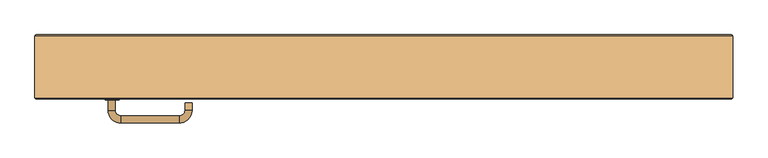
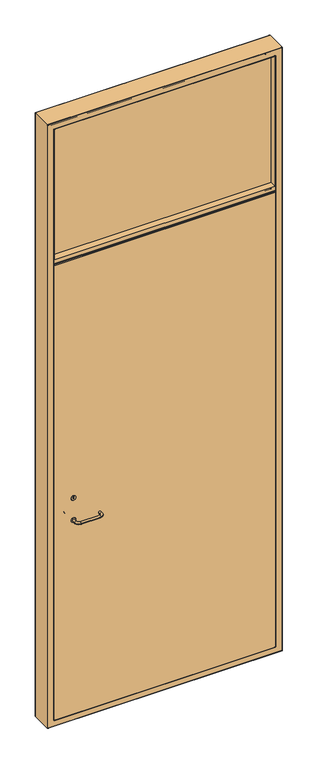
"""IFC4 building model written with IfcOpenShell, lengths in millimetres: door geometry, WOOD LINE_GARDEROBSKARM : WOOD LINE_GARDEROBSKARM."""

from ifc_helpers import new_model, si_unit, point, frame, frame_2d, origin, place, context, project, spatial, polyline, circle_curve, ellipse_curve, trimmed, segment, composite_curve, outline, extrude, source, transform, mapped, element, save
from ifc_brep_helpers import plane_surface, cylinder_surface, revolved_surface, advanced_brep


def door_4baf7495(model_context):
    return source(origin(), model_context, "Body", "SolidModel", [
        extrude(outline(composite_curve([segment(trimmed(circle_curve(frame_2d((900.0, -389.4405855)), 10.0), [point((900.0, -399.4405855))], [point((900.0, -379.4405855))], False, "CARTESIAN"), True, "CONTINUOUS"), segment(trimmed(circle_curve(frame_2d((900.0, -389.4405855)), 10.0), [point((900.0, -379.4405855))], [point((900.0, -399.4405855))], False, "CARTESIAN"), True, "CONTINUOUS")], self_intersect=False)), frame((0.0, -1.2008827, 0.0), z_axis=(0.0, 1.0, 0.0), x_axis=(0.0, 0.0, 1.0)), (0.0, 0.0, 1.0), 1.2008827),
        extrude(outline(composite_curve([segment(trimmed(circle_curve(frame_2d((1000.0, -389.4405855)), 10.0), [point((1000.0, -399.4405855))], [point((1000.0, -379.4405855))], False, "CARTESIAN"), True, "CONTINUOUS"), segment(trimmed(circle_curve(frame_2d((1000.0, -389.4405855)), 10.0), [point((1000.0, -379.4405855))], [point((1000.0, -399.4405855))], False, "CARTESIAN"), True, "CONTINUOUS")], self_intersect=False), holes=[composite_curve([segment(polyline([(1000.5857864, -388.9405855), (996.5, -388.9405855), (996.5, -389.9405855), (1000.5857864, -389.9405855)]), True, "CONTINUOUS"), segment(trimmed(circle_curve(frame_2d((1002.0, -389.4405855)), 1.5), [point((1000.5857864, -389.9405855))], [point((1000.5857864, -388.9405855))], True, "CARTESIAN"), True, "CONTINUOUS")], self_intersect=False)]), frame((0.0, -1.2008827, 0.0), z_axis=(0.0, 1.0, 0.0), x_axis=(0.0, 0.0, 1.0)), (0.0, 0.0, 1.0), 1.2008827),
        advanced_brep(
        [(-395.0, 4.366354, 900.0), (-385.0, 4.366354, 900.0), (-385.0, -16.133646, 900.0), (-395.0, -16.133646, 900.0), (-275.0, -5.633646, 900.0), (-285.0, -5.633646, 900.0), (-377.0, -24.133646, 900.0), (-377.0, -34.133646, 900.0), (-293.0, -34.133646, 900.0), (-293.0, -24.133646, 900.0), (-285.0, -16.133646, 900.0), (-275.0, -16.133646, 900.0)],
        [
            (0, 1, circle_curve(frame((-390.0, 4.366354, 900.0), z_axis=(0.0, 1.0, 0.0), x_axis=(1.0, 0.0, 0.0)), 5.0)),
            (1, 0, circle_curve(frame((-390.0, 4.366354, 900.0), z_axis=(0.0, 1.0, 0.0), x_axis=(1.0, 0.0, 0.0)), 5.0)),
            (1, 2),
            (2, 3, circle_curve(frame((-390.0, -16.133646, 900.0), z_axis=(0.0, 1.0, 0.0), x_axis=(1.0, 0.0, 0.0)), 5.0)),
            (3, 0),
            (3, 2, circle_curve(frame((-390.0, -16.133646, 900.0), z_axis=(0.0, 1.0, 0.0), x_axis=(1.0, 0.0, 0.0)), 5.0)),
            (4, 5, circle_curve(frame((-280.0, -5.633646, 900.0), z_axis=(0.0, 1.0, 0.0), x_axis=(-1.0, 0.0, 0.0)), 5.0)),
            (5, 4, circle_curve(frame((-280.0, -5.633646, 900.0), z_axis=(0.0, 1.0, 0.0), x_axis=(-1.0, 0.0, 0.0)), 5.0)),
            (6, 2, circle_curve(frame((-377.0, -16.133646, 900.0), z_axis=(0.0, 0.0, -1.0), x_axis=(-1.0, 0.0, 0.0)), 8.0)),
            (3, 7, circle_curve(frame((-377.0, -16.133646, 900.0), z_axis=(0.0, 0.0, 1.0), x_axis=(-1.0, 0.0, 0.0)), 18.0)),
            (7, 6, circle_curve(frame((-377.0, -29.133646, 900.0), z_axis=(-1.0, 0.0, 0.0), x_axis=(0.0, 1.0, 0.0)), 5.0)),
            (6, 7, circle_curve(frame((-377.0, -29.133646, 900.0), z_axis=(-1.0, 0.0, 0.0), x_axis=(0.0, 1.0, 0.0)), 5.0)),
            (7, 8),
            (8, 9, circle_curve(frame((-293.0, -29.133646, 900.0), z_axis=(-1.0, 0.0, 0.0), x_axis=(0.0, 1.0, 0.0)), 5.0)),
            (9, 6),
            (9, 8, circle_curve(frame((-293.0, -29.133646, 900.0), z_axis=(-1.0, 0.0, 0.0), x_axis=(0.0, 1.0, 0.0)), 5.0)),
            (10, 9, circle_curve(frame((-293.0, -16.133646, 900.0), z_axis=(0.0, 0.0, -1.0), x_axis=(0.0, -1.0, 0.0)), 8.0)),
            (8, 11, circle_curve(frame((-293.0, -16.133646, 900.0), z_axis=(0.0, 0.0, 1.0), x_axis=(0.0, -1.0, 0.0)), 18.0)),
            (11, 10, circle_curve(frame((-280.0, -16.133646, 900.0), z_axis=(0.0, -1.0, 0.0), x_axis=(-1.0, 0.0, 0.0)), 5.0)),
            (10, 11, circle_curve(frame((-280.0, -16.133646, 900.0), z_axis=(0.0, -1.0, 0.0), x_axis=(-1.0, 0.0, 0.0)), 5.0)),
            (11, 4),
            (5, 10),
        ],
        [
            plane_surface(frame((-390.0, 4.366354, 0.0), z_axis=(0.0, 1.0, 0.0), x_axis=(0.0, 0.0, 1.0))),
            cylinder_surface(frame((-390.0, 4.366354, 900.0), z_axis=(0.0, 1.0, 0.0), x_axis=(1.0, 0.0, 0.0)), 5.0),
            plane_surface(frame((-280.0, -5.633646, 0.0), z_axis=(0.0, 1.0, 0.0), x_axis=(0.0, 0.0, 1.0))),
            revolved_surface(trimmed(ellipse_curve(frame((-390.0, -16.133646, 900.0), z_axis=(0.0, 1.0, 0.0), x_axis=(1.0, 0.0, 0.0)), 5.0, 5.0), [point((-395.0, -16.133646, 900.0))], [point((-385.0, -16.133646, 900.0))], True, "CARTESIAN"), (-377.0, -16.133646, 0.0), (0.0, 0.0, 1.0)),
            revolved_surface(trimmed(ellipse_curve(frame((-390.0, -16.133646, 900.0), z_axis=(0.0, 1.0, 0.0), x_axis=(1.0, 0.0, 0.0)), 5.0, 5.0), [point((-385.0, -16.133646, 900.0))], [point((-395.0, -16.133646, 900.0))], True, "CARTESIAN"), (-377.0, -16.133646, 0.0), (0.0, 0.0, 1.0)),
            cylinder_surface(frame((-377.0, -29.133646, 900.0), z_axis=(-1.0, 0.0, 0.0), x_axis=(0.0, 1.0, 0.0)), 5.0),
            revolved_surface(trimmed(ellipse_curve(frame((-293.0, -29.133646, 900.0), z_axis=(-1.0, 0.0, 0.0), x_axis=(0.0, 1.0, 0.0)), 5.0, 5.0), [point((-293.0, -34.133646, 900.0))], [point((-293.0, -24.133646, 900.0))], True, "CARTESIAN"), (-293.0, -16.133646, 0.0), (0.0, 0.0, 1.0)),
            revolved_surface(trimmed(ellipse_curve(frame((-293.0, -29.133646, 900.0), z_axis=(-1.0, 0.0, 0.0), x_axis=(0.0, 1.0, 0.0)), 5.0, 5.0), [point((-293.0, -24.133646, 900.0))], [point((-293.0, -34.133646, 900.0))], True, "CARTESIAN"), (-293.0, -16.133646, 0.0), (0.0, 0.0, 1.0)),
            cylinder_surface(frame((-280.0, -16.133646, 900.0), z_axis=(0.0, -1.0, 0.0), x_axis=(-1.0, 0.0, 0.0)), 5.0),
        ],
        [
            (0, [[1, 2]]),
            (1, [[-2, 3, 4, 5]]),
            (1, [[-1, -5, 6, -3]]),
            (2, [[7, 8]]),
            (3, [[9, -6, 10, 11]]),
            (4, [[-10, -4, -9, 12]]),
            (5, [[-11, 13, 14, 15]]),
            (5, [[-12, -15, 16, -13]]),
            (6, [[17, -14, 18, 19]]),
            (7, [[-18, -16, -17, 20]]),
            (8, [[-19, 21, -8, 22]]),
            (8, [[-20, -22, -7, -21]]),
        ],
    ),
        extrude(outline(polyline([(-470.0, 43.0), (470.0, 43.0), (470.0, 30.0), (-470.0, 30.0), (-470.0, 43.0)])), frame((0.0, 0.0, 2100.0), z_axis=(0.0, 0.0, 1.0), x_axis=(1.0, 0.0, 0.0)), (0.0, 0.0, 1.0), 586.0),
        extrude(outline(composite_curve([segment(trimmed(circle_curve(frame_2d((38.0, 32.0)), 2.0), [point((40.0, 32.0))], [point((38.0, 30.0))], False, "CARTESIAN"), True, "CONTINUOUS"), segment(polyline([(38.0, 30.0), (23.0, 30.0)]), True, "CONTINUOUS"), segment(trimmed(circle_curve(frame_2d((23.0, 28.0)), 2.0), [point((23.0, 30.0))], [point((21.0, 28.0))], True, "CARTESIAN"), True, "CONTINUOUS"), segment(polyline([(21.0, 28.0), (21.0, 25.0), (0.5294308, 25.0)]), True, "CONTINUOUS"), segment(trimmed(circle_curve(frame_2d((0.5294308, 25.5294308)), 0.5294308), [point((0.5294308, 25.0))], [point((0.0, 25.5294308))], False, "CARTESIAN"), True, "CONTINUOUS"), segment(polyline([(0.0, 25.5294308), (0.0, 2073.4103914)]), True, "CONTINUOUS"), segment(trimmed(circle_curve(frame_2d((1.5896086, 2073.4103914)), 1.5896086), [point((0.0, 2073.4103914))], [point((1.5896086, 2075.0))], False, "CARTESIAN"), True, "CONTINUOUS"), segment(polyline([(1.5896086, 2075.0), (20.0, 2075.0), (20.0, 2070.0), (40.0, 2070.0), (40.0, 32.0)]), True, "CONTINUOUS")], self_intersect=False)), frame((-470.0, 0.0, 0.0), z_axis=(1.0, 0.0, 0.0), x_axis=(0.0, 1.0, 0.0)), (0.0, 0.0, 1.0), 940.0),
        extrude(outline(polyline([(470.0, 30.0), (-470.0, 30.0), (-470.0, 43.0), (470.0, 43.0), (470.0, 30.0)])), frame((0.0, 0.0, 2100.0), z_axis=(0.0, 0.0, 1.0), x_axis=(1.0, 0.0, 0.0)), (0.0, 0.0, 1.0), 586.0),
        extrude(outline(composite_curve([segment(trimmed(circle_curve(frame_2d((90.0, 2072.0)), 2.0), [point((92.0, 2072.0))], [point((90.0, 2070.0))], False, "CARTESIAN"), True, "CONTINUOUS"), segment(polyline([(90.0, 2070.0), (32.0, 2070.0)]), True, "CONTINUOUS"), segment(trimmed(circle_curve(frame_2d((32.0, 2072.0)), 2.0), [point((32.0, 2070.0))], [point((30.0, 2072.0))], False, "CARTESIAN"), True, "CONTINUOUS"), segment(polyline([(30.0, 2072.0), (30.0, 2080.0), (2.0, 2080.0)]), True, "CONTINUOUS"), segment(trimmed(circle_curve(frame_2d((2.0, 2082.0)), 2.0), [point((2.0, 2080.0))], [point((0.0, 2082.0))], False, "CARTESIAN"), True, "CONTINUOUS"), segment(polyline([(0.0, 2082.0), (0.0, 2100.0), (90.0, 2100.0)]), True, "CONTINUOUS"), segment(trimmed(circle_curve(frame_2d((90.0, 2098.0)), 2.0), [point((90.0, 2100.0))], [point((92.0, 2098.0))], False, "CARTESIAN"), True, "CONTINUOUS"), segment(polyline([(92.0, 2098.0), (92.0, 2072.0)]), True, "CONTINUOUS")], self_intersect=False)), frame((-470.0, 0.0, 0.0), z_axis=(1.0, 0.0, 0.0), x_axis=(0.0, 1.0, 0.0)), (0.0, 0.0, 1.0), 940.0),
        advanced_brep(
        [(470.0, 87.0, 30.0), (470.0, 90.0, 30.0), (-470.0, 90.0, 30.0), (-470.0, 87.0, 30.0), (500.0, 90.0, 0.0), (500.0, 1.5, 0.0), (-500.0, 1.5, 0.0), (-500.0, 90.0, 0.0), (498.0, 92.0, 2.0), (-498.0, 92.0, 2.0), (-470.0, 90.0, 2686.0), (-470.0, 87.0, 2686.0), (-500.0, 1.5, 2716.0), (-500.0, 90.0, 2716.0), (-498.0, 92.0, 2714.0), (470.0, 90.0, 2686.0), (470.0, 87.0, 2686.0), (500.0, 1.5, 2716.0), (500.0, 90.0, 2716.0), (498.0, 92.0, 2714.0), (472.0, 92.0, 28.0), (472.0, 92.0, 2688.0), (-472.0, 92.0, 2688.0), (-472.0, 92.0, 28.0), (470.0, 2.0, 30.0), (470.0, 43.0, 30.0), (-470.0, 43.0, 30.0), (-470.0, 2.0, 30.0), (472.0, 0.0, 28.0), (-472.0, 0.0, 28.0), (-470.0, 43.0, 2686.0), (-470.0, 2.0, 2686.0), (-472.0, 0.0, 2688.0), (470.0, 43.0, 2686.0), (470.0, 2.0, 2686.0), (472.0, 0.0, 2688.0), (498.5, 0.0, 1.5), (498.5, 0.0, 2714.5), (-498.5, 0.0, 2714.5), (-498.5, 0.0, 1.5), (457.0, 85.5, 43.0), (458.5, 87.0, 41.5), (-458.5, 87.0, 41.5), (-457.0, 85.5, 43.0), (457.0, 44.5, 43.0), (-457.0, 44.5, 43.0), (458.5, 43.0, 41.5), (-458.5, 43.0, 41.5), (-458.5, 87.0, 2674.5), (-457.0, 85.5, 2673.0), (-457.0, 44.5, 2673.0), (-458.5, 43.0, 2674.5), (458.5, 87.0, 2674.5), (457.0, 85.5, 2673.0), (457.0, 44.5, 2673.0), (458.5, 43.0, 2674.5)],
        [
            (0, 1),
            (1, 2),
            (2, 3),
            (3, 0),
            (4, 5),
            (5, 6),
            (6, 7),
            (7, 4),
            (8, 4, ellipse_curve(frame((498.0, 90.0, 2.0), z_axis=(-0.7071067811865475, 0.0, -0.7071067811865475), x_axis=(0.7071067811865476, 0.0, -0.7071067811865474)), 2.8284271, 2.0)),
            (7, 9, ellipse_curve(frame((-498.0, 90.0, 2.0), z_axis=(0.7071067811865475, 0.0, -0.7071067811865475), x_axis=(0.7071067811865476, 0.0, 0.7071067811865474)), 2.8284271, 2.0)),
            (9, 8),
            (2, 10),
            (10, 11),
            (11, 3),
            (6, 12),
            (12, 13),
            (13, 7),
            (13, 14, ellipse_curve(frame((-498.0, 90.0, 2714.0), z_axis=(-0.7071067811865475, 0.0, -0.7071067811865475), x_axis=(0.7071067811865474, 0.0, -0.7071067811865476)), 2.8284271, 2.0)),
            (14, 9),
            (10, 15),
            (15, 16),
            (16, 11),
            (12, 17),
            (17, 18),
            (18, 13),
            (18, 19, ellipse_curve(frame((498.0, 90.0, 2714.0), z_axis=(-0.7071067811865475, 0.0, 0.7071067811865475), x_axis=(-0.7071067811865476, 0.0, -0.7071067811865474)), 2.8284271, 2.0)),
            (19, 14),
            (15, 1),
            (0, 16),
            (17, 5),
            (4, 18),
            (8, 19),
            (20, 21),
            (21, 22),
            (22, 23),
            (23, 20),
            (1, 20, ellipse_curve(frame((472.0, 90.0, 28.0), z_axis=(-0.7071067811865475, 0.0, -0.7071067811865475), x_axis=(0.7071067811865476, 0.0, -0.7071067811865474)), 2.8284271, 2.0)),
            (23, 2, ellipse_curve(frame((-472.0, 90.0, 28.0), z_axis=(0.7071067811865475, 0.0, -0.7071067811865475), x_axis=(0.7071067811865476, 0.0, 0.7071067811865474)), 2.8284271, 2.0)),
            (22, 10, ellipse_curve(frame((-472.0, 90.0, 2688.0), z_axis=(-0.7071067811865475, 0.0, -0.7071067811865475), x_axis=(0.7071067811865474, 0.0, -0.7071067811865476)), 2.8284271, 2.0)),
            (21, 15, ellipse_curve(frame((472.0, 90.0, 2688.0), z_axis=(-0.7071067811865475, 0.0, 0.7071067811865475), x_axis=(-0.7071067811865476, 0.0, -0.7071067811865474)), 2.8284271, 2.0)),
            (24, 25),
            (25, 26),
            (26, 27),
            (27, 24),
            (28, 24, ellipse_curve(frame((472.0, 2.0, 28.0), z_axis=(-0.7071067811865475, 0.0, -0.7071067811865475), x_axis=(0.7071067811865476, 0.0, -0.7071067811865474)), 2.8284271, 2.0)),
            (27, 29, ellipse_curve(frame((-472.0, 2.0, 28.0), z_axis=(0.7071067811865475, 0.0, -0.7071067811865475), x_axis=(0.7071067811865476, 0.0, 0.7071067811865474)), 2.8284271, 2.0)),
            (29, 28),
            (26, 30),
            (30, 31),
            (31, 27),
            (31, 32, ellipse_curve(frame((-472.0, 2.0, 2688.0), z_axis=(-0.7071067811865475, 0.0, -0.7071067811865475), x_axis=(0.7071067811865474, 0.0, -0.7071067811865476)), 2.8284271, 2.0)),
            (32, 29),
            (30, 33),
            (33, 34),
            (34, 31),
            (34, 35, ellipse_curve(frame((472.0, 2.0, 2688.0), z_axis=(-0.7071067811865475, 0.0, 0.7071067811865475), x_axis=(-0.7071067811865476, 0.0, -0.7071067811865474)), 2.8284271, 2.0)),
            (35, 32),
            (33, 25),
            (24, 34),
            (28, 35),
            (36, 37),
            (37, 38),
            (38, 39),
            (39, 36),
            (40, 41, ellipse_curve(frame((458.5, 85.5, 41.5), z_axis=(-0.7071067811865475, 0.0, -0.7071067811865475), x_axis=(0.7071067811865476, 0.0, -0.7071067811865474)), 2.1213203, 1.5)),
            (41, 42),
            (42, 43, ellipse_curve(frame((-458.5, 85.5, 41.5), z_axis=(0.7071067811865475, 0.0, -0.7071067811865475), x_axis=(0.7071067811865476, 0.0, 0.7071067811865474)), 2.1213203, 1.5)),
            (43, 40),
            (44, 40),
            (43, 45),
            (45, 44),
            (46, 44, ellipse_curve(frame((458.5, 44.5, 41.5), z_axis=(-0.7071067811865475, 0.0, -0.7071067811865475), x_axis=(0.7071067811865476, 0.0, -0.7071067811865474)), 2.1213203, 1.5)),
            (45, 47, ellipse_curve(frame((-458.5, 44.5, 41.5), z_axis=(0.7071067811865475, 0.0, -0.7071067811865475), x_axis=(0.7071067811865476, 0.0, 0.7071067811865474)), 2.1213203, 1.5)),
            (47, 46),
            (5, 36, ellipse_curve(frame((498.5, 1.5, 1.5), z_axis=(-0.7071067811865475, 0.0, -0.7071067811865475), x_axis=(0.7071067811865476, 0.0, -0.7071067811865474)), 2.1213203, 1.5)),
            (39, 6, ellipse_curve(frame((-498.5, 1.5, 1.5), z_axis=(0.7071067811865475, 0.0, -0.7071067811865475), x_axis=(0.7071067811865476, 0.0, 0.7071067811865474)), 2.1213203, 1.5)),
            (42, 48),
            (48, 49, ellipse_curve(frame((-458.5, 85.5, 2674.5), z_axis=(-0.7071067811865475, 0.0, -0.7071067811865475), x_axis=(0.7071067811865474, 0.0, -0.7071067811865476)), 2.1213203, 1.5)),
            (49, 43),
            (49, 50),
            (50, 45),
            (50, 51, ellipse_curve(frame((-458.5, 44.5, 2674.5), z_axis=(-0.7071067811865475, 0.0, -0.7071067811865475), x_axis=(0.7071067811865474, 0.0, -0.7071067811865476)), 2.1213203, 1.5)),
            (51, 47),
            (38, 12, ellipse_curve(frame((-498.5, 1.5, 2714.5), z_axis=(-0.7071067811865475, 0.0, -0.7071067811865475), x_axis=(0.7071067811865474, 0.0, -0.7071067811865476)), 2.1213203, 1.5)),
            (48, 52),
            (52, 53, ellipse_curve(frame((458.5, 85.5, 2674.5), z_axis=(-0.7071067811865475, 0.0, 0.7071067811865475), x_axis=(-0.7071067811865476, 0.0, -0.7071067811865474)), 2.1213203, 1.5)),
            (53, 49),
            (53, 54),
            (54, 50),
            (54, 55, ellipse_curve(frame((458.5, 44.5, 2674.5), z_axis=(-0.7071067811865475, 0.0, 0.7071067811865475), x_axis=(-0.7071067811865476, 0.0, -0.7071067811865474)), 2.1213203, 1.5)),
            (55, 51),
            (37, 17, ellipse_curve(frame((498.5, 1.5, 2714.5), z_axis=(-0.7071067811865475, 0.0, 0.7071067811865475), x_axis=(-0.7071067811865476, 0.0, -0.7071067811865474)), 2.1213203, 1.5)),
            (41, 52),
            (40, 53),
            (44, 54),
            (46, 55),
        ],
        [
            plane_surface(frame((470.0, 90.0, 30.0), z_axis=(0.0, 0.0, 1.0), x_axis=(-1.0, 0.0, 0.0))),
            plane_surface(frame((500.0, 1.5, 0.0), z_axis=(0.0, 0.0, -1.0), x_axis=(-1.0, 0.0, 0.0))),
            cylinder_surface(frame((500.0, 90.0, 2.0), z_axis=(1.0, 0.0, 0.0), x_axis=(0.0, -1.0, 0.0)), 2.0),
            plane_surface(frame((-470.0, 90.0, 30.0), z_axis=(1.0, 0.0, 0.0), x_axis=(0.0, 0.0, 1.0))),
            plane_surface(frame((-500.0, 1.5, 0.0), z_axis=(-1.0, 0.0, 0.0), x_axis=(0.0, 0.0, 1.0))),
            cylinder_surface(frame((-498.0, 90.0, 0.0), z_axis=(0.0, 0.0, -1.0), x_axis=(0.0, -1.0, 0.0)), 2.0),
            plane_surface(frame((-470.0, 90.0, 2686.0), z_axis=(0.0, 0.0, -1.0), x_axis=(1.0, 0.0, 0.0))),
            plane_surface(frame((-500.0, 1.5, 2716.0), z_axis=(0.0, 0.0, 1.0), x_axis=(1.0, 0.0, 0.0))),
            cylinder_surface(frame((-500.0, 90.0, 2714.0), z_axis=(-1.0, 0.0, 0.0), x_axis=(0.0, -1.0, 0.0)), 2.0),
            plane_surface(frame((470.0, 90.0, 2686.0), z_axis=(-1.0, 0.0, 0.0), x_axis=(0.0, 0.0, -1.0))),
            plane_surface(frame((500.0, 1.5, 2716.0), z_axis=(1.0, 0.0, 0.0), x_axis=(0.0, 0.0, -1.0))),
            cylinder_surface(frame((498.0, 90.0, 2716.0), z_axis=(0.0, 0.0, 1.0), x_axis=(0.0, -1.0, 0.0)), 2.0),
            plane_surface(frame((498.0, 92.0, 2714.0), z_axis=(0.0, 1.0, 0.0), x_axis=(0.0, 0.0, -1.0))),
            cylinder_surface(frame((500.0, 90.0, 28.0), z_axis=(1.0, 0.0, 0.0), x_axis=(0.0, -1.0, 0.0)), 2.0),
            cylinder_surface(frame((-472.0, 90.0, 0.0), z_axis=(0.0, 0.0, -1.0), x_axis=(0.0, -1.0, 0.0)), 2.0),
            cylinder_surface(frame((-500.0, 90.0, 2688.0), z_axis=(-1.0, 0.0, 0.0), x_axis=(0.0, -1.0, 0.0)), 2.0),
            cylinder_surface(frame((472.0, 90.0, 2716.0), z_axis=(0.0, 0.0, 1.0), x_axis=(0.0, -1.0, 0.0)), 2.0),
            plane_surface(frame((470.0, 43.0, 30.0), z_axis=(0.0, 0.0, 1.0), x_axis=(-1.0, 0.0, 0.0))),
            cylinder_surface(frame((500.0, 2.0, 28.0), z_axis=(1.0, 0.0, 0.0), x_axis=(0.0, -1.0, 0.0)), 2.0),
            plane_surface(frame((-470.0, 43.0, 30.0), z_axis=(1.0, 0.0, 0.0), x_axis=(0.0, 0.0, 1.0))),
            cylinder_surface(frame((-472.0, 2.0, 0.0), z_axis=(0.0, 0.0, -1.0), x_axis=(0.0, -1.0, 0.0)), 2.0),
            plane_surface(frame((-470.0, 43.0, 2686.0), z_axis=(0.0, 0.0, -1.0), x_axis=(1.0, 0.0, 0.0))),
            cylinder_surface(frame((-500.0, 2.0, 2688.0), z_axis=(-1.0, 0.0, 0.0), x_axis=(0.0, -1.0, 0.0)), 2.0),
            plane_surface(frame((470.0, 43.0, 2686.0), z_axis=(-1.0, 0.0, 0.0), x_axis=(0.0, 0.0, -1.0))),
            cylinder_surface(frame((472.0, 2.0, 2716.0), z_axis=(0.0, 0.0, 1.0), x_axis=(0.0, -1.0, 0.0)), 2.0),
            plane_surface(frame((472.0, 0.0, 2688.0), z_axis=(0.0, -1.0, 0.0), x_axis=(0.0, 0.0, -1.0))),
            cylinder_surface(frame((500.0, 85.5, 41.5), z_axis=(1.0, 0.0, 0.0), x_axis=(0.0, -1.0, 0.0)), 1.5),
            plane_surface(frame((457.0, 85.5, 43.0), z_axis=(0.0, 0.0, 1.0), x_axis=(-1.0, 0.0, 0.0))),
            cylinder_surface(frame((500.0, 44.5, 41.5), z_axis=(1.0, 0.0, 0.0), x_axis=(0.0, -1.0, 0.0)), 1.5),
            cylinder_surface(frame((500.0, 1.5, 1.5), z_axis=(1.0, 0.0, 0.0), x_axis=(0.0, -1.0, 0.0)), 1.5),
            cylinder_surface(frame((-458.5, 85.5, 0.0), z_axis=(0.0, 0.0, -1.0), x_axis=(0.0, -1.0, 0.0)), 1.5),
            plane_surface(frame((-457.0, 85.5, 43.0), z_axis=(1.0, 0.0, 0.0), x_axis=(0.0, 0.0, 1.0))),
            cylinder_surface(frame((-458.5, 44.5, 0.0), z_axis=(0.0, 0.0, -1.0), x_axis=(0.0, -1.0, 0.0)), 1.5),
            cylinder_surface(frame((-498.5, 1.5, 0.0), z_axis=(0.0, 0.0, -1.0), x_axis=(0.0, -1.0, 0.0)), 1.5),
            cylinder_surface(frame((-500.0, 85.5, 2674.5), z_axis=(-1.0, 0.0, 0.0), x_axis=(0.0, -1.0, 0.0)), 1.5),
            plane_surface(frame((-457.0, 85.5, 2673.0), z_axis=(0.0, 0.0, -1.0), x_axis=(1.0, 0.0, 0.0))),
            cylinder_surface(frame((-500.0, 44.5, 2674.5), z_axis=(-1.0, 0.0, 0.0), x_axis=(0.0, -1.0, 0.0)), 1.5),
            cylinder_surface(frame((-500.0, 1.5, 2714.5), z_axis=(-1.0, 0.0, 0.0), x_axis=(0.0, -1.0, 0.0)), 1.5),
            plane_surface(frame((470.0, 87.0, 2686.0), z_axis=(0.0, 1.0, 0.0), x_axis=(0.0, 0.0, -1.0))),
            cylinder_surface(frame((458.5, 85.5, 2716.0), z_axis=(0.0, 0.0, 1.0), x_axis=(0.0, -1.0, 0.0)), 1.5),
            plane_surface(frame((457.0, 85.5, 2673.0), z_axis=(-1.0, 0.0, 0.0), x_axis=(0.0, 0.0, -1.0))),
            cylinder_surface(frame((458.5, 44.5, 2716.0), z_axis=(0.0, 0.0, 1.0), x_axis=(0.0, -1.0, 0.0)), 1.5),
            plane_surface(frame((458.5, 43.0, 2674.5), z_axis=(0.0, -1.0, 0.0), x_axis=(0.0, 0.0, -1.0))),
            cylinder_surface(frame((498.5, 1.5, 2716.0), z_axis=(0.0, 0.0, 1.0), x_axis=(0.0, -1.0, 0.0)), 1.5),
        ],
        [
            (0, [[1, 2, 3, 4]]),
            (1, [[5, 6, 7, 8]]),
            (2, [[9, -8, 10, 11]]),
            (3, [[-3, 12, 13, 14]]),
            (4, [[-7, 15, 16, 17]]),
            (5, [[-10, -17, 18, 19]]),
            (6, [[-13, 20, 21, 22]]),
            (7, [[-16, 23, 24, 25]]),
            (8, [[-18, -25, 26, 27]]),
            (9, [[-21, 28, -1, 29]]),
            (10, [[-24, 30, -5, 31]]),
            (11, [[-26, -31, -9, 32]]),
            (12, [[-19, -27, -32, -11], [33, 34, 35, 36]]),
            (13, [[37, -36, 38, -2]]),
            (14, [[-38, -35, 39, -12]]),
            (15, [[-39, -34, 40, -20]]),
            (16, [[-40, -33, -37, -28]]),
            (17, [[41, 42, 43, 44]]),
            (18, [[45, -44, 46, 47]]),
            (19, [[-43, 48, 49, 50]]),
            (20, [[-46, -50, 51, 52]]),
            (21, [[-49, 53, 54, 55]]),
            (22, [[-51, -55, 56, 57]]),
            (23, [[-54, 58, -41, 59]]),
            (24, [[-56, -59, -45, 60]]),
            (25, [[61, 62, 63, 64], [-52, -57, -60, -47]]),
            (26, [[65, 66, 67, 68]]),
            (27, [[69, -68, 70, 71]]),
            (28, [[72, -71, 73, 74]]),
            (29, [[75, -64, 76, -6]]),
            (30, [[-67, 77, 78, 79]]),
            (31, [[-70, -79, 80, 81]]),
            (32, [[-73, -81, 82, 83]]),
            (33, [[-76, -63, 84, -15]]),
            (34, [[-78, 85, 86, 87]]),
            (35, [[-80, -87, 88, 89]]),
            (36, [[-82, -89, 90, 91]]),
            (37, [[-84, -62, 92, -23]]),
            (38, [[-14, -22, -29, -4], [93, -85, -77, -66]]),
            (39, [[-86, -93, -65, 94]]),
            (40, [[-88, -94, -69, 95]]),
            (41, [[-90, -95, -72, 96]]),
            (42, [[-58, -53, -48, -42], [-83, -91, -96, -74]]),
            (43, [[-92, -61, -75, -30]]),
        ],
    ),
        extrude(outline(composite_curve([segment(trimmed(circle_curve(frame_2d((1000.0, -389.4405855)), 10.0), [point((1000.0, -399.4405855))], [point((1000.0, -379.4405855))], False, "CARTESIAN"), True, "CONTINUOUS"), segment(trimmed(circle_curve(frame_2d((1000.0, -389.4405855)), 10.0), [point((1000.0, -379.4405855))], [point((1000.0, -399.4405855))], False, "CARTESIAN"), True, "CONTINUOUS")], self_intersect=False), holes=[composite_curve([segment(trimmed(circle_curve(frame_2d((1002.0, -389.4405855)), 1.5), [point((1000.5857864, -389.9405855))], [point((1000.5857864, -388.9405855))], True, "CARTESIAN"), True, "CONTINUOUS"), segment(polyline([(1000.5857864, -388.9405855), (996.5, -388.9405855), (996.5, -389.9405855), (1000.5857864, -389.9405855)]), True, "CONTINUOUS")], self_intersect=False)]), frame((0.0, 40.0, 0.0), z_axis=(0.0, 1.0, 0.0), x_axis=(0.0, 0.0, 1.0)), (0.0, 0.0, 1.0), 1.2),
        extrude(outline(composite_curve([segment(trimmed(circle_curve(frame_2d((900.0, -389.4405855)), 10.0), [point((900.0, -399.4405855))], [point((900.0, -379.4405855))], False, "CARTESIAN"), True, "CONTINUOUS"), segment(trimmed(circle_curve(frame_2d((900.0, -389.4405855)), 10.0), [point((900.0, -379.4405855))], [point((900.0, -399.4405855))], False, "CARTESIAN"), True, "CONTINUOUS")], self_intersect=False)), frame((0.0, 40.0, 0.0), z_axis=(0.0, 1.0, 0.0), x_axis=(0.0, 0.0, 1.0)), (0.0, 0.0, 1.0), 1.2),
        advanced_brep(
        [(-395.0, 36.5198663, 900.0), (-385.0, 36.5198663, 900.0), (-395.0, 57.0198663, 900.0), (-385.0, 57.0198663, 900.0), (-377.0, 65.0198663, 900.0), (-377.0, 75.0198663, 900.0), (-293.0, 75.0198663, 900.0), (-293.0, 65.0198663, 900.0), (-285.0, 57.0198663, 900.0), (-275.0, 57.0198663, 900.0), (-275.0, 46.5198663, 900.0), (-285.0, 46.5198663, 900.0)],
        [
            (0, 1, circle_curve(frame((-390.0, 36.5198663, 900.0), z_axis=(0.0, -1.0, 0.0), x_axis=(-1.0, 0.0, 0.0)), 5.0)),
            (1, 0, circle_curve(frame((-390.0, 36.5198663, 900.0), z_axis=(0.0, -1.0, 0.0), x_axis=(-1.0, 0.0, 0.0)), 5.0)),
            (0, 2),
            (2, 3, circle_curve(frame((-390.0, 57.0198663, 900.0), z_axis=(0.0, -1.0, 0.0), x_axis=(-1.0, 0.0, 0.0)), 5.0)),
            (3, 1),
            (3, 2, circle_curve(frame((-390.0, 57.0198663, 900.0), z_axis=(0.0, -1.0, 0.0), x_axis=(-1.0, 0.0, 0.0)), 5.0)),
            (4, 3, circle_curve(frame((-377.0, 57.0198663, 900.0), z_axis=(0.0, 0.0, 1.0), x_axis=(-1.0, 0.0, 0.0)), 8.0)),
            (2, 5, circle_curve(frame((-377.0, 57.0198663, 900.0), z_axis=(0.0, 0.0, -1.0), x_axis=(-1.0, 0.0, 0.0)), 18.0)),
            (5, 4, circle_curve(frame((-377.0, 70.0198663, 900.0), z_axis=(-1.0, 0.0, 0.0), x_axis=(0.0, 1.0, 0.0)), 5.0)),
            (4, 5, circle_curve(frame((-377.0, 70.0198663, 900.0), z_axis=(-1.0, 0.0, 0.0), x_axis=(0.0, 1.0, 0.0)), 5.0)),
            (5, 6),
            (6, 7, circle_curve(frame((-293.0, 70.0198663, 900.0), z_axis=(-1.0, 0.0, 0.0), x_axis=(0.0, 1.0, 0.0)), 5.0)),
            (7, 4),
            (7, 6, circle_curve(frame((-293.0, 70.0198663, 900.0), z_axis=(-1.0, 0.0, 0.0), x_axis=(0.0, 1.0, 0.0)), 5.0)),
            (8, 7, circle_curve(frame((-293.0, 57.0198663, 900.0), z_axis=(0.0, 0.0, 1.0), x_axis=(0.0, 1.0, 0.0)), 8.0)),
            (6, 9, circle_curve(frame((-293.0, 57.0198663, 900.0), z_axis=(0.0, 0.0, -1.0), x_axis=(0.0, 1.0, 0.0)), 18.0)),
            (9, 8, circle_curve(frame((-280.0, 57.0198663, 900.0), z_axis=(0.0, 1.0, 0.0), x_axis=(1.0, 0.0, 0.0)), 5.0)),
            (8, 9, circle_curve(frame((-280.0, 57.0198663, 900.0), z_axis=(0.0, 1.0, 0.0), x_axis=(1.0, 0.0, 0.0)), 5.0)),
            (10, 11, circle_curve(frame((-280.0, 46.5198663, 900.0), z_axis=(0.0, -1.0, 0.0), x_axis=(1.0, 0.0, 0.0)), 5.0)),
            (11, 10, circle_curve(frame((-280.0, 46.5198663, 900.0), z_axis=(0.0, -1.0, 0.0), x_axis=(1.0, 0.0, 0.0)), 5.0)),
            (9, 10),
            (11, 8),
        ],
        [
            plane_surface(frame((-390.0, 36.5198663, 0.0), z_axis=(0.0, -1.0, 0.0), x_axis=(0.0, 0.0, 1.0))),
            cylinder_surface(frame((-390.0, 36.5198663, 900.0), z_axis=(0.0, -1.0, 0.0), x_axis=(-1.0, 0.0, 0.0)), 5.0),
            revolved_surface(trimmed(ellipse_curve(frame((-390.0, 57.0198663, 900.0), z_axis=(0.0, -1.0, 0.0), x_axis=(-1.0, 0.0, 0.0)), 5.0, 5.0), [point((-395.0, 57.0198663, 900.0))], [point((-385.0, 57.0198663, 900.0))], True, "CARTESIAN"), (-377.0, 57.0198663, 0.0), (0.0, 0.0, -1.0)),
            revolved_surface(trimmed(ellipse_curve(frame((-390.0, 57.0198663, 900.0), z_axis=(0.0, -1.0, 0.0), x_axis=(-1.0, 0.0, 0.0)), 5.0, 5.0), [point((-385.0, 57.0198663, 900.0))], [point((-395.0, 57.0198663, 900.0))], True, "CARTESIAN"), (-377.0, 57.0198663, 0.0), (0.0, 0.0, -1.0)),
            cylinder_surface(frame((-377.0, 70.0198663, 900.0), z_axis=(-1.0, 0.0, 0.0), x_axis=(0.0, 1.0, 0.0)), 5.0),
            revolved_surface(trimmed(ellipse_curve(frame((-293.0, 70.0198663, 900.0), z_axis=(-1.0, 0.0, 0.0), x_axis=(0.0, 1.0, 0.0)), 5.0, 5.0), [point((-293.0, 75.0198663, 900.0))], [point((-293.0, 65.0198663, 900.0))], True, "CARTESIAN"), (-293.0, 57.0198663, 0.0), (0.0, 0.0, -1.0)),
            revolved_surface(trimmed(ellipse_curve(frame((-293.0, 70.0198663, 900.0), z_axis=(-1.0, 0.0, 0.0), x_axis=(0.0, 1.0, 0.0)), 5.0, 5.0), [point((-293.0, 65.0198663, 900.0))], [point((-293.0, 75.0198663, 900.0))], True, "CARTESIAN"), (-293.0, 57.0198663, 0.0), (0.0, 0.0, -1.0)),
            plane_surface(frame((-280.0, 46.5198663, 0.0), z_axis=(0.0, -1.0, 0.0), x_axis=(0.0, 0.0, 1.0))),
            cylinder_surface(frame((-280.0, 57.0198663, 900.0), z_axis=(0.0, 1.0, 0.0), x_axis=(1.0, 0.0, 0.0)), 5.0),
        ],
        [
            (0, [[1, 2]]),
            (1, [[-1, 3, 4, 5]]),
            (1, [[-2, -5, 6, -3]]),
            (2, [[7, -4, 8, 9]]),
            (3, [[-8, -6, -7, 10]]),
            (4, [[-9, 11, 12, 13]]),
            (4, [[-10, -13, 14, -11]]),
            (5, [[15, -12, 16, 17]]),
            (6, [[-16, -14, -15, 18]]),
            (7, [[19, 20]]),
            (8, [[-17, 21, -20, 22]]),
            (8, [[-18, -22, -19, -21]]),
        ],
    ),
    ])


if __name__ == "__main__":
    model = new_model("IFC4")
    model_context = context("Model", 3, world=origin())
    ifc_project = project(units=[si_unit("LENGTHUNIT", "METRE", prefix="MILLI")], contexts=[model_context])
    site = spatial("IfcSite", under=ifc_project)
    building = spatial("IfcBuilding", under=site)
    placement = place(None, origin())
    door_shape = door_4baf7495(model_context)
    element("IfcDoor", 1, ObjectType="WOOD LINE_GARDEROBSKARM : WOOD LINE_GARDEROBSKARM", at=placement, inside=building, context=model_context, shape_type="MappedRepresentation", body=[
        mapped(door_shape, transform((0.0, 0.0, 0.0), x_axis=(1.0, 0.0, 0.0), y_axis=(0.0, 1.0, 0.0), z_axis=(0.0, 0.0, 1.0))),
    ])
    save(model, "model.ifc")
